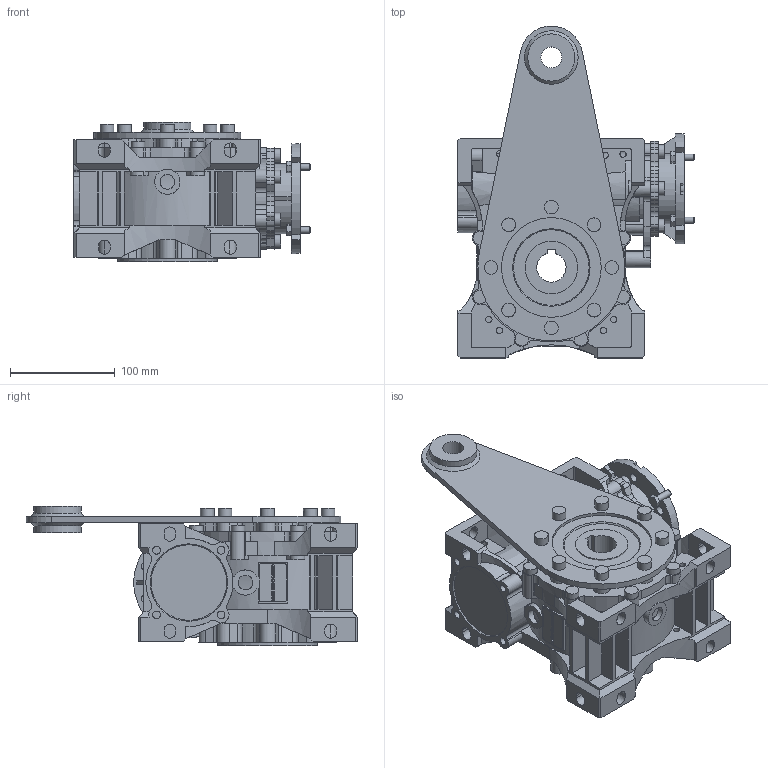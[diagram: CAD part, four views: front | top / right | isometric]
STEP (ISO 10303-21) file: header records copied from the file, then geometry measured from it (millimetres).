
FILE_DESCRIPTION(/* description */ ('STEP AP203'),/* implementation_level */ '2;1');
FILE_NAME(/* name */ 'NMRVP_075_105x14_28_NO_NO_-_-_NO_-_D_5_NO_NO_-_---_---------------',/* time_stamp */ '2025-12-03T05:32:21+01:00',/* author */ ('License CC BY-ND 4.0'),/* organization */ ('CADENAS'),/* preprocessor_version */ 'ST-DEVELOPER v20',/* originating_system */ 'PARTsolutions',/* authorisation */ ' ');
FILE_SCHEMA (('CONFIG_CONTROL_DESIGN'));
Length unit declared in the file: millimetre
Products named in the file (7): NMRVP 075 105x14 28 NO NO - - NO - D 5 NO NO - ---(---------------); W.075.01.M; 075-28 (120); W.075.14.14.M-p; 7571 B14; 75-50; 75-200-p
Assembly tree (6 placements, depth 2):
  NMRVP 075 105x14 28 NO NO - - NO - D 5 NO NO - ---(---------------)
    W.075.01.M
    075-28 (120)
    W.075.14.14.M-p
    7571 B14
    75-50
    75-200-p
Bounding box: 224.94 x 316 x 132.5 mm (x, y, z)
Volume: 2915634.4 mm3; surface area: 446970.5 mm2
Topology: 6 solids, 12 shells, 1582 faces, 4268 edges, 2830 vertices
Faces by surface type: plane 892, cylinder 646, cone 42, torus 2
Full cylindrical faces by diameter (mm): 6 x18, 6.647 x16, 7.26 x12, 8.5 x6, 10 x1, 13 x22, 14 x3, 20 x1, 24 x1, 29 x1, 31 x1, 40 x1, 42 x1, 45 x2, 48 x1, 50 x3, 68 x3, 70 x1, 95 x3
Entity records: 49669 total; most frequent: CARTESIAN_POINT 9069, DIRECTION 8619, ORIENTED_EDGE 8234, EDGE_CURVE 4117, AXIS2_PLACEMENT_3D 3053, VERTEX_POINT 2806, LINE 2513, VECTOR 2513
